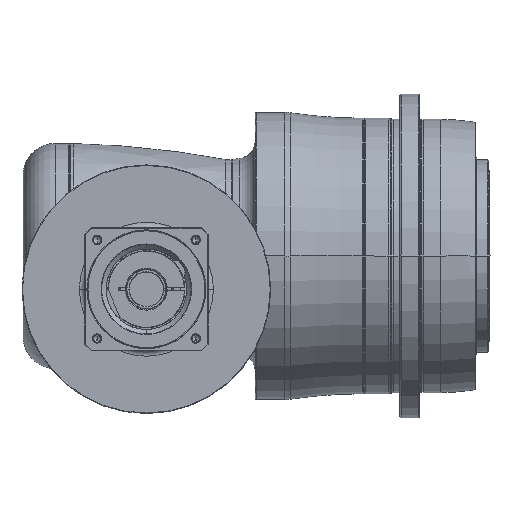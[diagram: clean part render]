
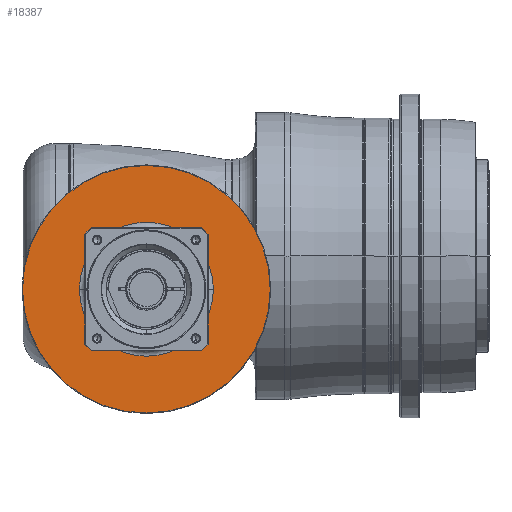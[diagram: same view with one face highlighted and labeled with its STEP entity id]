
A CAD part, front view. The second image highlights one B-rep face of the part: STEP entity #18387.
In plain terms, the highlighted planar face has unit normal (0, -1, 0) as drawn and (1, 0, 0) by its records, which use the part's own axes.
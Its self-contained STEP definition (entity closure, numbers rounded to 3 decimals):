
#17866=CARTESIAN_POINT('',(-7.5,0.,0.));
#17867=DIRECTION('',(-1.,0.,0.));
#17868=DIRECTION('',(0.,-1.,0.));
#17869=AXIS2_PLACEMENT_3D('',#17866,#17867,#17868);
#17871=CARTESIAN_POINT('',(-7.5,0.,0.));
#17872=DIRECTION('',(-1.,0.,0.));
#17873=DIRECTION('',(0.,1.,0.));
#17874=AXIS2_PLACEMENT_3D('',#17871,#17872,#17873);
#17876=CARTESIAN_POINT('',(-7.5,0.,0.));
#17877=DIRECTION('',(-1.,0.,0.));
#17878=DIRECTION('',(0.,-1.,0.));
#17879=AXIS2_PLACEMENT_3D('',#17876,#17877,#17878);
#17881=CARTESIAN_POINT('',(-7.5,0.,0.));
#17882=DIRECTION('',(-1.,0.,0.));
#17883=DIRECTION('',(0.,1.,0.));
#17884=AXIS2_PLACEMENT_3D('',#17881,#17882,#17883);
#17950=CARTESIAN_POINT('',(-7.5,-115.5,0.));
#17951=CARTESIAN_POINT('',(-7.5,115.5,0.));
#17952=VERTEX_POINT('',#17950);
#17953=VERTEX_POINT('',#17951);
#17974=CARTESIAN_POINT('',(-7.5,-62.5,0.));
#17975=CARTESIAN_POINT('',(-7.5,62.5,0.));
#17976=VERTEX_POINT('',#17974);
#17977=VERTEX_POINT('',#17975);
#18372=CARTESIAN_POINT('',(-7.5,0.,0.));
#18373=DIRECTION('',(1.,0.,0.));
#18374=DIRECTION('',(0.,-1.,0.));
#18375=AXIS2_PLACEMENT_3D('',#18372,#18373,#18374);
#18376=PLANE('',#18375);
#18377=ORIENTED_EDGE('',*,*,#18313,.T.);
#18378=ORIENTED_EDGE('',*,*,#18328,.T.);
#18379=EDGE_LOOP('',(#18377,#18378));
#18380=FACE_OUTER_BOUND('',#18379,.F.);
#18382=ORIENTED_EDGE('',*,*,#18381,.F.);
#18384=ORIENTED_EDGE('',*,*,#18383,.F.);
#18385=EDGE_LOOP('',(#18382,#18384));
#18386=FACE_BOUND('',#18385,.F.);
#18387=ADVANCED_FACE('',(#18380,#18386),#18376,.T.);
#17870=CIRCLE('',#17869,62.5);
#17875=CIRCLE('',#17874,62.5);
#17880=CIRCLE('',#17879,115.5);
#17885=CIRCLE('',#17884,115.5);
#18313=EDGE_CURVE('',#17952,#17953,#17880,.T.);
#18328=EDGE_CURVE('',#17953,#17952,#17885,.T.);
#18381=EDGE_CURVE('',#17976,#17977,#17870,.T.);
#18383=EDGE_CURVE('',#17977,#17976,#17875,.T.);
